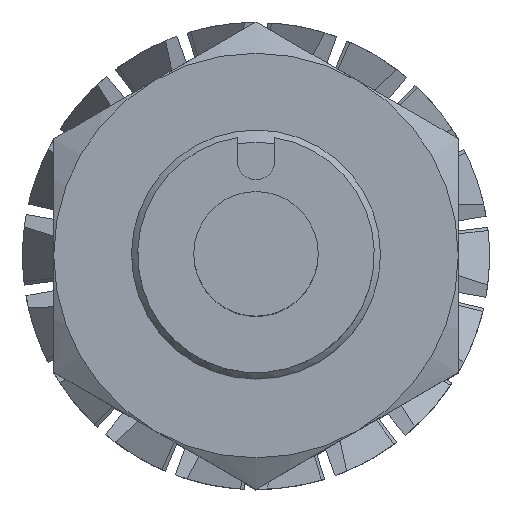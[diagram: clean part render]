
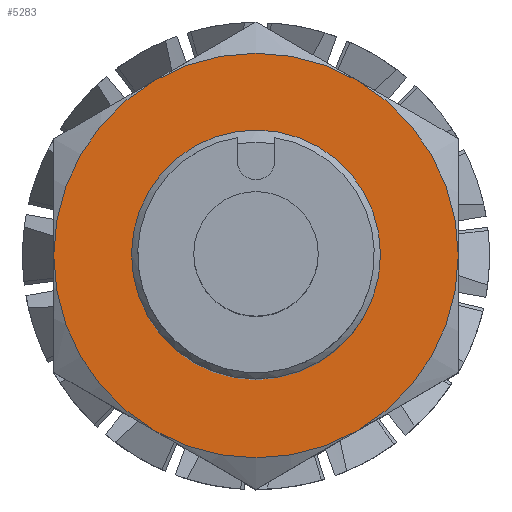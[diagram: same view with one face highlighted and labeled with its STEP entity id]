
A CAD part, top view. The second image highlights one B-rep face of the part: STEP entity #5283.
In plain terms, the highlighted planar face has unit normal (0, 0, 1).
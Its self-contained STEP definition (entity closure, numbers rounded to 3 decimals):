
#176=FACE_BOUND('',#813,.T.);
#281=CIRCLE('',#5704,4.);
#289=CIRCLE('',#5714,6.5);
#290=CIRCLE('',#5715,6.5);
#291=CIRCLE('',#5716,6.5);
#292=CIRCLE('',#5717,6.5);
#293=CIRCLE('',#5718,6.5);
#294=CIRCLE('',#5719,6.5);
#518=FACE_OUTER_BOUND('',#812,.T.);
#812=EDGE_LOOP('',(#3953,#3954,#3955,#3956,#3957,#3958));
#813=EDGE_LOOP('',(#3959));
#2170=VERTEX_POINT('',#8341);
#2178=VERTEX_POINT('',#8359);
#2179=VERTEX_POINT('',#8360);
#2180=VERTEX_POINT('',#8362);
#2181=VERTEX_POINT('',#8364);
#2182=VERTEX_POINT('',#8366);
#2183=VERTEX_POINT('',#8368);
#2805=EDGE_CURVE('',#2170,#2170,#281,.T.);
#2813=EDGE_CURVE('',#2178,#2179,#289,.T.);
#2814=EDGE_CURVE('',#2179,#2180,#290,.T.);
#2815=EDGE_CURVE('',#2180,#2181,#291,.T.);
#2816=EDGE_CURVE('',#2181,#2182,#292,.T.);
#2817=EDGE_CURVE('',#2182,#2183,#293,.T.);
#2818=EDGE_CURVE('',#2183,#2178,#294,.T.);
#3953=ORIENTED_EDGE('',*,*,#2813,.T.);
#3954=ORIENTED_EDGE('',*,*,#2814,.T.);
#3955=ORIENTED_EDGE('',*,*,#2815,.T.);
#3956=ORIENTED_EDGE('',*,*,#2816,.T.);
#3957=ORIENTED_EDGE('',*,*,#2817,.T.);
#3958=ORIENTED_EDGE('',*,*,#2818,.T.);
#3959=ORIENTED_EDGE('',*,*,#2805,.F.);
#4793=PLANE('',#5713);
#5283=ADVANCED_FACE('',(#518,#176),#4793,.T.);
#5704=AXIS2_PLACEMENT_3D('',#8342,#6706,#6707);
#5713=AXIS2_PLACEMENT_3D('',#8358,#6724,#6725);
#5714=AXIS2_PLACEMENT_3D('',#8361,#6726,#6727);
#5715=AXIS2_PLACEMENT_3D('',#8363,#6728,#6729);
#5716=AXIS2_PLACEMENT_3D('',#8365,#6730,#6731);
#5717=AXIS2_PLACEMENT_3D('',#8367,#6732,#6733);
#5718=AXIS2_PLACEMENT_3D('',#8369,#6734,#6735);
#5719=AXIS2_PLACEMENT_3D('',#8370,#6736,#6737);
#6706=DIRECTION('center_axis',(0.,0.,1.));
#6707=DIRECTION('ref_axis',(-1.,0.,0.));
#6724=DIRECTION('center_axis',(0.,0.,1.));
#6725=DIRECTION('ref_axis',(1.,0.,0.));
#6726=DIRECTION('center_axis',(0.,0.,1.));
#6727=DIRECTION('ref_axis',(0.,1.,0.));
#6728=DIRECTION('center_axis',(0.,0.,1.));
#6729=DIRECTION('ref_axis',(0.,1.,0.));
#6730=DIRECTION('center_axis',(0.,0.,1.));
#6731=DIRECTION('ref_axis',(0.,1.,0.));
#6732=DIRECTION('center_axis',(0.,0.,1.));
#6733=DIRECTION('ref_axis',(0.,1.,0.));
#6734=DIRECTION('center_axis',(0.,0.,1.));
#6735=DIRECTION('ref_axis',(0.,1.,0.));
#6736=DIRECTION('center_axis',(0.,0.,1.));
#6737=DIRECTION('ref_axis',(0.,1.,0.));
#8341=CARTESIAN_POINT('',(4.,0.,35.026));
#8342=CARTESIAN_POINT('Origin',(0.,0.,35.026));
#8358=CARTESIAN_POINT('Origin',(0.,0.,
35.026));
#8359=CARTESIAN_POINT('',(3.25,-5.629,35.026));
#8360=CARTESIAN_POINT('',(6.5,0.,35.026));
#8361=CARTESIAN_POINT('Origin',(0.,0.,35.026));
#8362=CARTESIAN_POINT('',(3.25,5.629,35.026));
#8363=CARTESIAN_POINT('Origin',(0.,0.,35.026));
#8364=CARTESIAN_POINT('',(-3.25,5.629,35.026));
#8365=CARTESIAN_POINT('Origin',(0.,0.,35.026));
#8366=CARTESIAN_POINT('',(-6.5,0.,35.026));
#8367=CARTESIAN_POINT('Origin',(0.,0.,35.026));
#8368=CARTESIAN_POINT('',(-3.25,-5.629,35.026));
#8369=CARTESIAN_POINT('Origin',(0.,0.,35.026));
#8370=CARTESIAN_POINT('Origin',(0.,0.,35.026));
